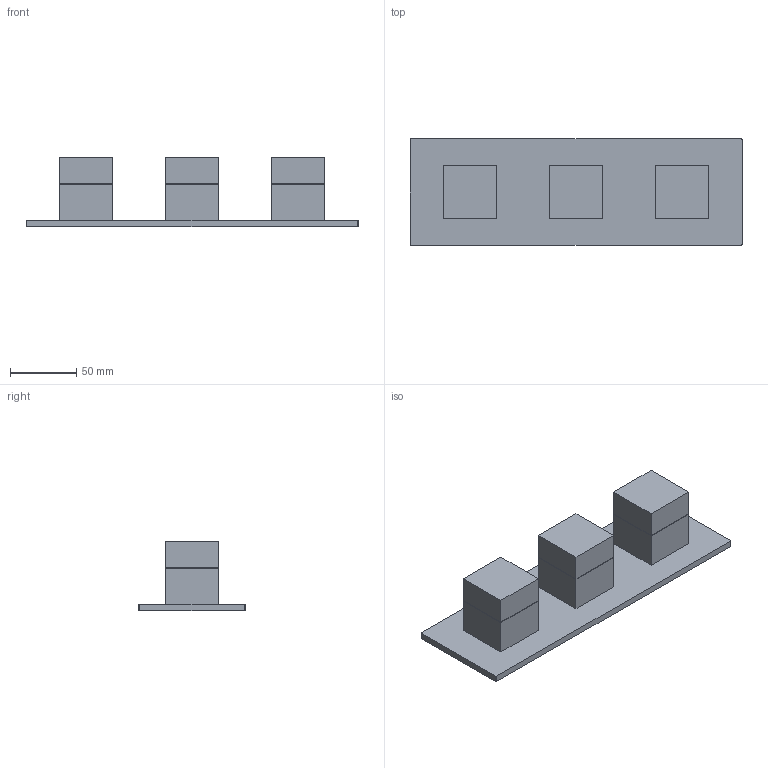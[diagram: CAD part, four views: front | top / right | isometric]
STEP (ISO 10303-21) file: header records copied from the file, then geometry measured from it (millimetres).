
FILE_DESCRIPTION(('FreeCAD Model'),'2;1');
FILE_NAME('Open CASCADE Shape Model','2024-08-09T23:07:07',('Author'),( ''),'Open CASCADE STEP processor 7.6','FreeCAD','Unknown');
FILE_SCHEMA(('AUTOMOTIVE_DESIGN { 1 0 10303 214 1 1 1 1 }'));
Length unit declared in the file: millimetre
Products named in the file (18): TopLevelAssembly; Wyciąganie001; Wyciąganie005; Wyciąganie002; Wyciąganie003; Wyciąganie004; Wyciąganie009; Wyciąganie006; Wyciąganie007; Wyciąganie008; Wyciąganie013; Wyciąganie010; Wyciąganie011; Wyciąganie012; Wyciąganie030; Wyciąganie027; Wyciąganie028; Wyciąganie029
Assembly tree (17 placements, depth 3):
  TopLevelAssembly
    Wyciąganie001
    Wyciąganie005
      Wyciąganie002
      Wyciąganie003
      Wyciąganie004
    Wyciąganie009
      Wyciąganie006
      Wyciąganie007
      Wyciąganie008
    Wyciąganie013
      Wyciąganie010
      Wyciąganie011
      Wyciąganie012
    Wyciąganie030
      Wyciąganie027
      Wyciąganie028
      Wyciąganie029
Bounding box: 250 x 80 x 52.5 mm (x, y, z)
Volume: 554246.9 mm3; surface area: 125231.3 mm2
Topology: 13 solids, 13 shells, 82 faces, 156 edges, 100 vertices
Faces by surface type: plane 78, cylinder 4
Entity records: 2436 total; most frequent: DIRECTION 364, CARTESIAN_POINT 356, ORIENTED_EDGE 312, EDGE_CURVE 156, LINE 148, VECTOR 148, AXIS2_PLACEMENT_3D 108, VERTEX_POINT 100
